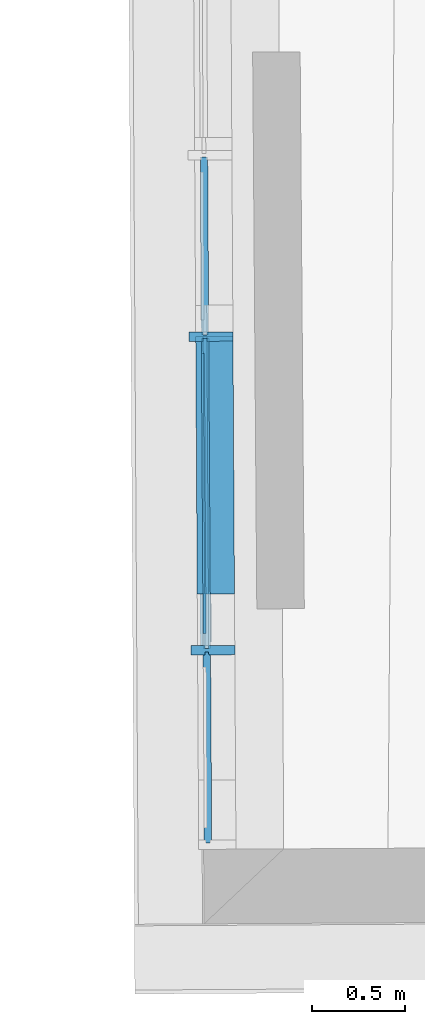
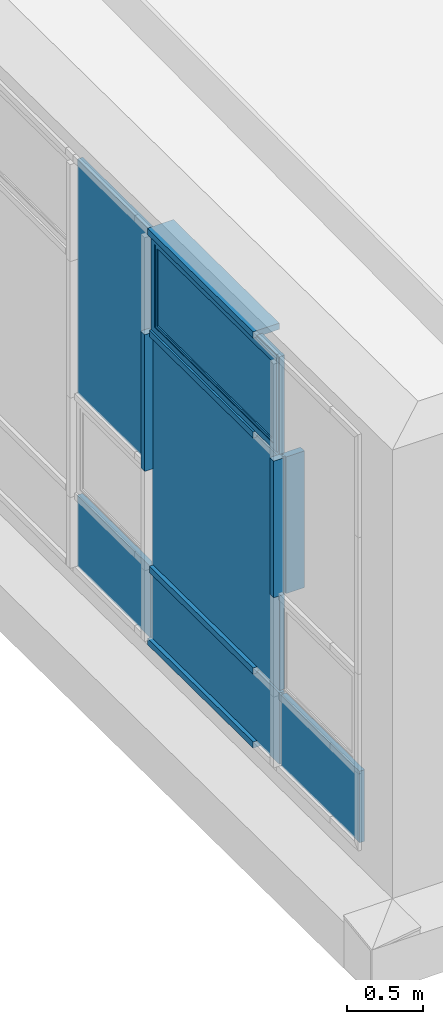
# One storey, part 91 of 158: 13 building element parts, 1 element without a shape of its own.
"""IFC2X3 building model written with IfcOpenShell, lengths in metres."""

from ifc_helpers import new_model, entity, si_unit, converted_unit, derived_unit, money_unit, direction, frame, origin_with_axes, place, context, subcontext, project, spatial, faceted_brep, material, type_object, element, aggregate, save


model = new_model("IFC2X3")

# Units and contexts
model_context = context("Model", 3, precision=1e-05, world=origin_with_axes(), true_north=direction((0.0, 1.0)))
body_context = subcontext(model_context, "Body", "Model", "MODEL_VIEW")
ifc_project = project(units=[si_unit("LENGTHUNIT", "METRE"), si_unit("AREAUNIT", "SQUARE_METRE"), si_unit("VOLUMEUNIT", "CUBIC_METRE"), converted_unit("PLANEANGLEUNIT", "DEGREE", entity("IfcPlaneAngleMeasure", 0.0174532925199), si_unit("PLANEANGLEUNIT", "RADIAN"), dimensions=[0, 0, 0, 0, 0, 0, 0]), money_unit("EUR"), converted_unit("TIMEUNIT", "Year", entity("IfcTimeMeasure", 31556926.0), si_unit("TIMEUNIT", "SECOND"), dimensions=[0, 0, 1, 0, 0, 0, 0]), si_unit("MASSUNIT", "GRAM", prefix="KILO"), si_unit("THERMODYNAMICTEMPERATUREUNIT", "DEGREE_CELSIUS"), si_unit("LUMINOUSINTENSITYUNIT", "LUMEN"), si_unit("ENERGYUNIT", "JOULE", prefix="MEGA"), derived_unit("THERMALCONDUCTANCEUNIT", [(si_unit("POWERUNIT", "WATT"), 1), (si_unit("LENGTHUNIT", "METRE"), -1), (si_unit("THERMODYNAMICTEMPERATUREUNIT", "KELVIN"), -1)]), derived_unit("SPECIFICHEATCAPACITYUNIT", [(si_unit("ENERGYUNIT", "JOULE"), 1), (si_unit("MASSUNIT", "GRAM", prefix="KILO"), -1), (si_unit("THERMODYNAMICTEMPERATUREUNIT", "KELVIN"), -1)]), derived_unit("MASSDENSITYUNIT", [(si_unit("MASSUNIT", "GRAM", prefix="KILO"), 1), (si_unit("VOLUMEUNIT", "CUBIC_METRE"), -1)])], contexts=[model_context])

# Site, building, storey
site_placement = place(None, origin_with_axes())
site = spatial("IfcSite", under=ifc_project, at=site_placement, Name="Gelände", CompositionType="ELEMENT")
building_placement = place(site_placement, origin_with_axes())
building = spatial("IfcBuilding", under=site, at=building_placement, Name="Gebäude", CompositionType="ELEMENT")
storey_placement = place(building_placement, origin_with_axes())
storey = spatial("IfcBuildingStorey", under=building, at=storey_placement, Name="ERDGESCHOSS", CompositionType="ELEMENT", Elevation=0.0)

# Proxy, building element parts
building_element_proxy_type = type_object("IfcBuildingElementProxyType", Name="Fassadentyp", PredefinedType="NOTDEFINED")
proxy_placement = place(storey_placement, frame((-34.8120286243, 34.4012060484, 1.3404389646), z_axis=(0.0, 0.0, 1.0), x_axis=(1.0, 0.0, 0.0)))
proxy = element("IfcBuildingElementProxy", 1, at=proxy_placement, inside=storey, type_object=building_element_proxy_type, Name="Fassade-002")
ifc_material_1 = material(Name="45_Glas, Normalglas")
building_element_part_1_placement = place(proxy_placement, origin_with_axes())
building_element_part_1 = element("IfcBuildingElementPart", 2, at=building_element_part_1_placement, material=ifc_material_1, Name="45_Glas, Normalglas", context=body_context, shape_type="Brep", body=[
    faceted_brep([(0.02233019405, -0.397258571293, 3.31499999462), (0.0213984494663, -0.238388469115, 3.31499999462), (-0.0186008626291, -0.238623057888, 3.31499999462), (-0.0176691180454, -0.397493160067, 3.31499999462), (0.02233019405, -0.397258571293, 2.52000009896), (0.0223301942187, -0.397258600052, 1.43000009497), (0.0213984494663, -0.238388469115, 1.43000009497), (0.0167365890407, 0.556497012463, 1.43000009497), (0.0167365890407, 0.556497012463, 2.52000009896), (0.0167365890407, 0.556497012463, 3.31499999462), (-0.0232627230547, 0.55626242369, 3.31499999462), (-0.0232627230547, 0.55626242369, 2.52000009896), (-0.0232627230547, 0.55626242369, 1.43000009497), (-0.0186008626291, -0.238623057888, 1.43000009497), (-0.0176691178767, -0.397493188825, 1.43000009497), (-0.0176691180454, -0.397493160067, 2.52000009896)], [[[0, 1, 2, 3]], [[0, 4, 5, 6, 7, 8, 9, 1]], [[1, 9, 10, 2]], [[3, 2, 10, 11, 12, 13, 14, 15]], [[4, 0, 3, 15]], [[5, 4, 15, 14]], [[6, 5, 14, 13]], [[7, 6, 13, 12]], [[8, 7, 12, 11]], [[9, 8, 11, 10]]]),
])
building_element_part_2_placement = place(proxy_placement, origin_with_axes())
building_element_part_2 = element("IfcBuildingElementPart", 3, at=building_element_part_2_placement, material=ifc_material_1, Name="45_Glas, Normalglas", context=body_context, shape_type="Brep", body=[
    faceted_brep([(0.0223301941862, -0.397258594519, 0.610000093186), (0.0213984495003, -0.238388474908, 0.610000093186), (-0.0186008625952, -0.238623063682, 0.610000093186), (-0.0176691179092, -0.397493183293, 0.610000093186), (0.0223301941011, -0.397258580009, 0.035000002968), (0.0213984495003, -0.238388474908, 0.035000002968), (0.0167365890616, 0.55649700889, 0.035000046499), (0.0167365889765, 0.5564970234, 0.610000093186), (-0.0232627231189, 0.556262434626, 0.610000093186), (-0.0232627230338, 0.556262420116, 0.035000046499), (-0.0186008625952, -0.238623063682, 0.035000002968), (-0.0176691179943, -0.397493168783, 0.035000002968)], [[[0, 1, 2, 3]], [[0, 4, 5, 6, 7, 1]], [[1, 7, 8, 2]], [[3, 2, 8, 9, 10, 11]], [[4, 0, 3, 11]], [[5, 4, 11, 10]], [[6, 5, 10, 9]], [[7, 6, 9, 8]]]),
])
building_element_part_3_placement = place(proxy_placement, origin_with_axes())
building_element_part_3 = element("IfcBuildingElementPart", 4, at=building_element_part_3_placement, material=ifc_material_1, Name="45_Glas, Normalglas", context=body_context, shape_type="Brep", body=[
    faceted_brep([(0.0322030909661, -2.08066856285, 2.51000010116), (0.0304887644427, -1.78836181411, 2.51000010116), (-0.0095105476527, -1.78859640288, 2.51000010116), (-0.00779622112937, -2.08090315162, 2.51000010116), (0.0322030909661, -2.08066856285, 1.42000009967), (0.0322030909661, -2.08066856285, 0.630000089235), (0.0304887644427, -1.78836181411, 0.630000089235), (0.022447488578, -0.417258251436, 0.630000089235), (0.022447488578, -0.417258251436, 1.42000009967), (0.022447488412, -0.417258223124, 2.51000010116), (-0.0175518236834, -0.417492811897, 2.51000010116), (-0.0175518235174, -0.417492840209, 1.42000009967), (-0.0175518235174, -0.417492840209, 0.630000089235), (-0.0095105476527, -1.78859640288, 0.630000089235), (-0.00779622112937, -2.08090315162, 0.630000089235), (-0.00779622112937, -2.08090315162, 1.42000009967)], [[[0, 1, 2, 3]], [[0, 4, 5, 6, 7, 8, 9, 1]], [[1, 9, 10, 2]], [[3, 2, 10, 11, 12, 13, 14, 15]], [[4, 0, 3, 15]], [[5, 4, 15, 14]], [[6, 5, 14, 13]], [[7, 6, 13, 12]], [[8, 7, 12, 11]], [[9, 8, 11, 10]]]),
])
ifc_material_2 = material(Name="53_Metall, Aluminium")
building_element_part_4_placement = place(proxy_placement, origin_with_axes())
building_element_part_4 = element("IfcBuildingElementPart", 5, at=building_element_part_4_placement, material=ifc_material_2, Name="53_Metall, Aluminium", context=body_context, shape_type="Brep", body=[
    faceted_brep([(-0.027463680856, -0.432551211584, 2.54500009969), (-0.0178840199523, -2.06596205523, 2.54500009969), (-0.0228839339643, -2.06599137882, 2.54500009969), (-0.0324635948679, -0.432580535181, 2.54500009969), (-0.0271997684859, -0.477550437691, 2.59000009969), (-0.0181479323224, -2.02096282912, 2.59000009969), (-0.0231478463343, -2.02099215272, 2.59000009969), (-0.0321996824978, -0.477579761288, 2.59000009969)], [[[0, 1, 2, 3]], [[0, 4, 5, 1]], [[1, 5, 6, 2]], [[3, 2, 6, 7]], [[4, 0, 3, 7]], [[5, 4, 7, 6]]]),
    faceted_brep([(-0.0178840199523, -2.06596205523, 2.54500009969), (-0.0178840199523, -2.06596205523, 3.29999999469), (-0.0228839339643, -2.06599137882, 3.29999999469), (-0.0228839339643, -2.06599137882, 2.54500009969), (-0.0181479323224, -2.02096282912, 2.59000009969), (-0.0181479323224, -2.02096282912, 3.25499999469), (-0.0231478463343, -2.02099215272, 3.25499999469), (-0.0231478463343, -2.02099215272, 2.59000009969)], [[[0, 1, 2, 3]], [[0, 4, 5, 1]], [[1, 5, 6, 2]], [[3, 2, 6, 7]], [[4, 0, 3, 7]], [[5, 4, 7, 6]]]),
    faceted_brep([(-0.027463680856, -0.432551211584, 3.29999999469), (-0.0271997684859, -0.477550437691, 3.25499999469), (-0.0321996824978, -0.477579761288, 3.25499999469), (-0.0324635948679, -0.432580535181, 3.29999999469), (-0.0178840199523, -2.06596205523, 3.29999999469), (-0.0181479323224, -2.02096282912, 3.25499999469), (-0.0231478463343, -2.02099215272, 3.25499999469), (-0.0228839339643, -2.06599137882, 3.29999999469)], [[[0, 1, 2, 3]], [[0, 4, 5, 1]], [[1, 5, 6, 2]], [[3, 2, 6, 7]], [[4, 0, 3, 7]], [[5, 4, 7, 6]]]),
    faceted_brep([(-0.027463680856, -0.432551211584, 2.54500009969), (-0.0271997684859, -0.477550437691, 2.59000009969), (-0.0321996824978, -0.477579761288, 2.59000009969), (-0.0324635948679, -0.432580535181, 2.54500009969), (-0.027463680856, -0.432551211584, 3.29999999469), (-0.0271997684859, -0.477550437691, 3.25499999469), (-0.0321996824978, -0.477579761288, 3.25499999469), (-0.0324635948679, -0.432580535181, 3.29999999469)], [[[0, 1, 2, 3]], [[0, 4, 5, 1]], [[1, 5, 6, 2]], [[3, 2, 6, 7]], [[4, 0, 3, 7]], [[5, 4, 7, 6]]]),
    faceted_brep([(0.0225354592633, -0.432257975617, 2.54500009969), (0.0321151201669, -2.06566881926, 2.54500009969), (-0.0178840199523, -2.06596205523, 2.54500009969), (-0.027463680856, -0.432551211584, 2.54500009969), (0.02265275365, -0.452257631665, 2.56500009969), (0.0319978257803, -2.04566916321, 2.56500009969), (-0.018001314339, -2.04596239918, 2.56500009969), (-0.0273463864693, -0.452550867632, 2.56500009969)], [[[0, 1, 2, 3]], [[0, 4, 5, 1]], [[1, 5, 6, 2]], [[3, 2, 6, 7]], [[4, 0, 3, 7]], [[5, 4, 7, 6]]]),
    faceted_brep([(0.0321151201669, -2.06566881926, 2.54500009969), (0.0321151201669, -2.06566881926, 3.29999999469), (-0.0178840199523, -2.06596205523, 3.29999999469), (-0.0178840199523, -2.06596205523, 2.54500009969), (0.0319978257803, -2.04566916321, 2.56500009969), (0.0319978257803, -2.04566916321, 3.27999999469), (-0.018001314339, -2.04596239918, 3.27999999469), (-0.018001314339, -2.04596239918, 2.56500009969)], [[[0, 1, 2, 3]], [[0, 4, 5, 1]], [[1, 5, 6, 2]], [[3, 2, 6, 7]], [[4, 0, 3, 7]], [[5, 4, 7, 6]]]),
    faceted_brep([(0.0225354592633, -0.432257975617, 3.29999999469), (0.02265275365, -0.452257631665, 3.27999999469), (-0.0273463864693, -0.452550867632, 3.27999999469), (-0.027463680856, -0.432551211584, 3.29999999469), (0.0321151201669, -2.06566881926, 3.29999999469), (0.0319978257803, -2.04566916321, 3.27999999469), (-0.018001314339, -2.04596239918, 3.27999999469), (-0.0178840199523, -2.06596205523, 3.29999999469)], [[[0, 1, 2, 3]], [[0, 4, 5, 1]], [[1, 5, 6, 2]], [[3, 2, 6, 7]], [[4, 0, 3, 7]], [[5, 4, 7, 6]]]),
    faceted_brep([(0.0225354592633, -0.432257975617, 2.54500009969), (0.02265275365, -0.452257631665, 2.56500009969), (-0.0273463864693, -0.452550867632, 2.56500009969), (-0.027463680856, -0.432551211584, 2.54500009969), (0.0225354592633, -0.432257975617, 3.29999999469), (0.02265275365, -0.452257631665, 3.27999999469), (-0.0273463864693, -0.452550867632, 3.27999999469), (-0.027463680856, -0.432551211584, 3.29999999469)], [[[0, 1, 2, 3]], [[0, 4, 5, 1]], [[1, 5, 6, 2]], [[3, 2, 6, 7]], [[4, 0, 3, 7]], [[5, 4, 7, 6]]]),
    faceted_brep([(0.0224474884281, -0.417258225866, 2.53000009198), (0.0322030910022, -2.08066856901, 2.53000009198), (-0.00779622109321, -2.08090315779, 2.53000009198), (-0.0175518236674, -0.41749281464, 2.53000009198), (0.0225354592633, -0.432257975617, 2.54500009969), (0.0321151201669, -2.06566881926, 2.54500009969), (-0.00788419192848, -2.06590340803, 2.54500009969), (-0.0174638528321, -0.432492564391, 2.54500009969)], [[[0, 1, 2, 3]], [[0, 4, 5, 1]], [[1, 5, 6, 2]], [[3, 2, 6, 7]], [[4, 0, 3, 7]], [[5, 4, 7, 6]]]),
    faceted_brep([(0.0322030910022, -2.08066856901, 2.53000009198), (0.0322030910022, -2.08066856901, 3.3150000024), (-0.00779622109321, -2.08090315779, 3.3150000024), (-0.00779622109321, -2.08090315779, 2.53000009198), (0.0321151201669, -2.06566881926, 2.54500009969), (0.0321151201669, -2.06566881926, 3.29999999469), (-0.00788419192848, -2.06590340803, 3.29999999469), (-0.00788419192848, -2.06590340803, 2.54500009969)], [[[0, 1, 2, 3]], [[0, 4, 5, 1]], [[1, 5, 6, 2]], [[3, 2, 6, 7]], [[4, 0, 3, 7]], [[5, 4, 7, 6]]]),
    faceted_brep([(0.0322030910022, -2.08066856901, 3.3150000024), (0.0224474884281, -0.417258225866, 3.3150000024), (-0.0175518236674, -0.41749281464, 3.3150000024), (-0.00779622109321, -2.08090315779, 3.3150000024), (0.0321151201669, -2.06566881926, 3.29999999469), (0.0225354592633, -0.432257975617, 3.29999999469), (-0.0174638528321, -0.432492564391, 3.29999999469), (-0.00788419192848, -2.06590340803, 3.29999999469)], [[[0, 1, 2, 3]], [[0, 4, 5, 1]], [[1, 5, 6, 2]], [[3, 2, 6, 7]], [[4, 0, 3, 7]], [[5, 4, 7, 6]]]),
    faceted_brep([(0.0224474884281, -0.417258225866, 3.3150000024), (0.0224474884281, -0.417258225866, 2.53000009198), (-0.0175518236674, -0.41749281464, 2.53000009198), (-0.0175518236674, -0.41749281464, 3.3150000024), (0.0225354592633, -0.432257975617, 3.29999999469), (0.0225354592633, -0.432257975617, 2.54500009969), (-0.0174638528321, -0.432492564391, 2.54500009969), (-0.0174638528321, -0.432492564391, 3.29999999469)], [[[0, 1, 2, 3]], [[0, 4, 5, 1]], [[1, 5, 6, 2]], [[3, 2, 6, 7]], [[4, 0, 3, 7]], [[5, 4, 7, 6]]]),
    faceted_brep([(-0.0270824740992, -0.497550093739, 2.61000009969), (0.027916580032, -0.497227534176, 2.61000009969), (0.027916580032, -0.497227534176, 3.23499999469), (-0.0270824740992, -0.497550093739, 3.23499999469), (-0.0273463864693, -0.452550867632, 2.56500009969), (0.027652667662, -0.452228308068, 2.56500009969), (0.027652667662, -0.452228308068, 3.27999999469), (-0.0273463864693, -0.452550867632, 3.27999999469)], [[[0, 1, 2, 3]], [[4, 5, 1, 0]], [[1, 5, 6, 2]], [[3, 2, 6, 7]], [[0, 3, 7, 4]], [[7, 6, 5, 4]]]),
    faceted_brep([(-0.018001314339, -2.04596239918, 2.56500009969), (0.0369977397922, -2.04563983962, 2.56500009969), (0.0369977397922, -2.04563983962, 3.27999999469), (-0.018001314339, -2.04596239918, 3.27999999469), (-0.0182652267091, -2.00096317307, 2.61000009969), (0.0367338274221, -2.00064061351, 2.61000009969), (0.0367338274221, -2.00064061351, 3.23499999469), (-0.0182652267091, -2.00096317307, 3.23499999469)], [[[0, 1, 2, 3]], [[4, 5, 1, 0]], [[1, 5, 6, 2]], [[3, 2, 6, 7]], [[0, 3, 7, 4]], [[7, 6, 5, 4]]]),
    faceted_brep([(-0.018001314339, -2.04596239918, 2.56500009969), (0.0369977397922, -2.04563983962, 2.56500009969), (0.0367338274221, -2.00064061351, 2.61000009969), (-0.0182652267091, -2.00096317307, 2.61000009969), (-0.0273463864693, -0.452550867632, 2.56500009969), (0.027652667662, -0.452228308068, 2.56500009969), (0.027916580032, -0.497227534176, 2.61000009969), (-0.0270824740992, -0.497550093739, 2.61000009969)], [[[0, 1, 2, 3]], [[4, 5, 1, 0]], [[1, 5, 6, 2]], [[3, 2, 6, 7]], [[0, 3, 7, 4]], [[7, 6, 5, 4]]]),
    faceted_brep([(-0.0273463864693, -0.452550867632, 3.27999999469), (0.027652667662, -0.452228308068, 3.27999999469), (0.027916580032, -0.497227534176, 3.23499999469), (-0.0270824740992, -0.497550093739, 3.23499999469), (-0.018001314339, -2.04596239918, 3.27999999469), (0.0369977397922, -2.04563983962, 3.27999999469), (0.0367338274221, -2.00064061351, 3.23499999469), (-0.0182652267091, -2.00096317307, 3.23499999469)], [[[0, 1, 2, 3]], [[4, 5, 1, 0]], [[1, 5, 6, 2]], [[3, 2, 6, 7]], [[0, 3, 7, 4]], [[7, 6, 5, 4]]]),
])
building_element_part_5_placement = place(proxy_placement, origin_with_axes())
building_element_part_5 = element("IfcBuildingElementPart", 6, at=building_element_part_5_placement, material=ifc_material_1, Name="45_Glas, Normalglas", context=body_context, shape_type="Brep", body=[
    faceted_brep([(-0.0170826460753, -0.497491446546, 2.61000009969), (-0.00108292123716, -0.497397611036, 2.61000009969), (0.00773432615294, -2.00081069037, 2.61000009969), (-0.00826539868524, -2.00090452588, 2.61000009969), (-0.0170826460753, -0.497491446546, 3.23499999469), (-0.00108292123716, -0.497397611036, 3.23499999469), (0.00773432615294, -2.00081069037, 3.23499999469), (-0.00826539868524, -2.00090452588, 3.23499999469)], [[[0, 1, 2, 3]], [[4, 5, 1, 0]], [[1, 5, 6, 2]], [[3, 2, 6, 7]], [[0, 3, 7, 4]], [[7, 6, 5, 4]]]),
])
building_element_part_6_placement = place(proxy_placement, origin_with_axes())
building_element_part_6 = element("IfcBuildingElementPart", 7, at=building_element_part_6_placement, material=ifc_material_1, Name="45_Glas, Normalglas", context=body_context, shape_type="Brep", body=[
    faceted_brep([(0.0322030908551, -2.08066854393, 0.610000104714), (0.0304887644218, -1.78836181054, 0.610000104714), (-0.00951054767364, -1.78859639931, 0.610000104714), (-0.00779622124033, -2.0809031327, 0.610000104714), (0.0322030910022, -2.08066856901, 0.035000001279), (0.0304887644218, -1.78836181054, 0.035000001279), (0.0224474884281, -0.417258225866, 0.035000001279), (0.0224474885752, -0.417258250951, 0.610000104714), (-0.0175518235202, -0.417492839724, 0.610000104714), (-0.0175518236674, -0.41749281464, 0.035000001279), (-0.00951054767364, -1.78859639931, 0.035000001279), (-0.00779622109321, -2.08090315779, 0.035000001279)], [[[0, 1, 2, 3]], [[0, 4, 5, 6, 7, 1]], [[1, 7, 8, 2]], [[3, 2, 8, 9, 10, 11]], [[4, 0, 3, 11]], [[5, 4, 11, 10]], [[6, 5, 10, 9]], [[7, 6, 9, 8]]]),
])
building_element_part_7_placement = place(proxy_placement, origin_with_axes())
building_element_part_7 = element("IfcBuildingElementPart", 8, at=building_element_part_7_placement, material=ifc_material_1, Name="45_Glas, Normalglas", context=body_context, shape_type="Brep", body=[
    faceted_brep([(0.0383259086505, -3.12465925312, 0.610000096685), (0.0363534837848, -2.78834461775, 0.610000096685), (-0.0036458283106, -2.78857920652, 0.610000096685), (-0.00167340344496, -3.12489384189, 0.610000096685), (0.0383259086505, -3.12465925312, 0.0349999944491), (0.0363534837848, -2.78834461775, 0.0349999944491), (0.0323203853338, -2.10066821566, 0.0349999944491), (0.0323203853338, -2.10066821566, 0.610000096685), (-0.00767892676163, -2.10090280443, 0.610000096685), (-0.00767892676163, -2.10090280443, 0.0349999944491), (-0.0036458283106, -2.78857920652, 0.0349999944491), (-0.00167340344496, -3.12489384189, 0.0349999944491)], [[[0, 1, 2, 3]], [[0, 4, 5, 6, 7, 1]], [[1, 7, 8, 2]], [[3, 2, 8, 9, 10, 11]], [[4, 0, 3, 11]], [[5, 4, 11, 10]], [[6, 5, 10, 9]], [[7, 6, 9, 8]]]),
])
building_element_part_8_placement = place(proxy_placement, origin_with_axes())
building_element_part_8 = element("IfcBuildingElementPart", 9, at=building_element_part_8_placement, material=ifc_material_2, Name="53_Metall, Aluminium", context=body_context, shape_type="Brep", body=[
    faceted_brep([(0.0223205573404, -2.10072686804, 2.52000009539), (0.0224085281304, -2.11572661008, 2.52000009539), (0.162406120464, -2.11490554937, 2.52000009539), (0.162112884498, -2.06490640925, 2.52000009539), (0.0221152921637, -2.06572746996, 2.52000009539), (0.0222032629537, -2.080727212, 2.52000009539), (0.00220360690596, -2.08084450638, 2.52000009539), (0.00211563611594, -2.06584476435, 2.52000009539), (-0.072883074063, -2.0662846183, 2.52000009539), (-0.0725898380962, -2.11628375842, 2.52000009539), (0.00240887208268, -2.11584390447, 2.52000009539), (0.00232090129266, -2.10084416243, 2.52000009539), (0.0223205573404, -2.10072686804, 1.420000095), (0.0224085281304, -2.11572661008, 1.420000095), (0.162406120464, -2.11490554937, 1.420000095), (0.162112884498, -2.06490640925, 1.420000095), (0.0221152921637, -2.06572746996, 1.420000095), (0.0222032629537, -2.080727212, 1.420000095), (0.00220360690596, -2.08084450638, 1.420000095), (0.00211563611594, -2.06584476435, 1.420000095), (-0.072883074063, -2.0662846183, 1.420000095), (-0.0725898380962, -2.11628375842, 1.420000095), (0.00240887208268, -2.11584390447, 1.420000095), (0.00232090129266, -2.10084416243, 1.420000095)], [[[0, 1, 2, 3, 4, 5, 6, 7, 8, 9, 10, 11]], [[1, 0, 12, 13]], [[1, 13, 14, 2]], [[3, 2, 14, 15]], [[4, 3, 15, 16]], [[4, 16, 17, 5]], [[5, 17, 18, 6]], [[7, 6, 18, 19]], [[19, 20, 8, 7]], [[9, 8, 20, 21]], [[22, 10, 9, 21]], [[11, 10, 22, 23]], [[0, 11, 23, 12]], [[23, 22, 21, 20, 19, 18, 17, 16, 15, 14, 13, 12]]]),
])
building_element_part_9_placement = place(proxy_placement, origin_with_axes())
building_element_part_9 = element("IfcBuildingElementPart", 10, at=building_element_part_9_placement, material=ifc_material_2, Name="53_Metall, Aluminium", context=body_context, shape_type="Brep", body=[
    faceted_brep([(0.0204889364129, -1.78842046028, 3.31499999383), (0.0204889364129, -1.78842046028, 3.29999999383), (0.160486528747, -1.78759939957, 3.29999999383), (0.160486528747, -1.78759939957, 3.34999999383), (-0.0395100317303, -1.78877234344, 3.34999999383), (-0.0395100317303, -1.78877234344, 3.29999999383), (0.000489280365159, -1.78853775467, 3.29999999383), (0.000489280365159, -1.78853775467, 3.31499999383), (0.0123890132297, -0.407317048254, 3.31499999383), (0.0123890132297, -0.407317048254, 3.29999999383), (0.152386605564, -0.406495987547, 3.29999999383), (0.152386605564, -0.406495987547, 3.34999999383), (-0.0476099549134, -0.407668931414, 3.34999999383), (-0.0476099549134, -0.407668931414, 3.29999999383), (-0.00761064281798, -0.407434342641, 3.29999999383), (-0.00761064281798, -0.407434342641, 3.31499999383)], [[[0, 1, 2, 3, 4, 5, 6, 7]], [[0, 8, 9, 1]], [[9, 10, 2, 1]], [[10, 11, 3, 2]], [[11, 12, 4, 3]], [[12, 13, 5, 4]], [[6, 5, 13, 14]], [[14, 15, 7, 6]], [[7, 15, 8, 0]], [[8, 15, 14, 13, 12, 11, 10, 9]]]),
])
building_element_part_10_placement = place(proxy_placement, origin_with_axes())
building_element_part_10 = element("IfcBuildingElementPart", 11, at=building_element_part_10_placement, material=ifc_material_2, Name="53_Metall, Aluminium", context=body_context, shape_type="Brep", body=[
    faceted_brep([(0.0204889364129, -1.78842046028, 0.035), (0.000489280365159, -1.78853775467, 0.035), (0.000489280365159, -1.78853775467, 0.05), (-0.0395100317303, -1.78877234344, 0.05), (-0.0395100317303, -1.78877234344, 0.0), (0.160486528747, -1.78759939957, 0.0), (0.160486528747, -1.78759939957, 0.05), (0.0204889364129, -1.78842046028, 0.05), (0.0123890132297, -0.407317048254, 0.035), (-0.00761064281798, -0.407434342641, 0.035), (-0.00761064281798, -0.407434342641, 0.05), (-0.0476099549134, -0.407668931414, 0.05), (-0.0476099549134, -0.407668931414, 0.0), (0.152386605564, -0.406495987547, 0.0), (0.152386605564, -0.406495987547, 0.05), (0.0123890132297, -0.407317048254, 0.05)], [[[0, 1, 2, 3, 4, 5, 6, 7]], [[1, 0, 8, 9]], [[10, 2, 1, 9]], [[2, 10, 11, 3]], [[12, 4, 3, 11]], [[13, 5, 4, 12]], [[14, 6, 5, 13]], [[15, 7, 6, 14]], [[0, 7, 15, 8]], [[8, 15, 14, 13, 12, 11, 10, 9]]]),
])
building_element_part_11_placement = place(proxy_placement, origin_with_axes())
building_element_part_11 = element("IfcBuildingElementPart", 12, at=building_element_part_11_placement, material=ifc_material_2, Name="53_Metall, Aluminium", context=body_context, shape_type="Brep", body=[
    faceted_brep([(0.0204889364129, -1.78842046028, 0.610000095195), (0.0204889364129, -1.78842046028, 0.595000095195), (0.160486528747, -1.78759939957, 0.595000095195), (0.160486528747, -1.78759939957, 0.645000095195), (0.0204889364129, -1.78842046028, 0.645000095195), (0.0204889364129, -1.78842046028, 0.630000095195), (0.000489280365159, -1.78853775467, 0.630000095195), (0.000489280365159, -1.78853775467, 0.645000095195), (-0.0395100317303, -1.78877234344, 0.645000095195), (-0.0395100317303, -1.78877234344, 0.595000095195), (0.000489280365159, -1.78853775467, 0.595000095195), (0.000489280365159, -1.78853775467, 0.610000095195), (0.0125356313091, -0.432316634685, 0.610000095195), (0.0125356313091, -0.432316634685, 0.595000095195), (0.152533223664, -0.431495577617, 0.595000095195), (0.152533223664, -0.431495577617, 0.645000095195), (0.0125356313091, -0.432316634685, 0.645000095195), (0.0125356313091, -0.432316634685, 0.630000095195), (-0.00746402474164, -0.432433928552, 0.630000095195), (-0.00746402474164, -0.432433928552, 0.645000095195), (-0.0474633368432, -0.432668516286, 0.645000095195), (-0.0474633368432, -0.432668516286, 0.595000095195), (-0.00746402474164, -0.432433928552, 0.595000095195), (-0.00746402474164, -0.432433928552, 0.610000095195)], [[[0, 1, 2, 3, 4, 5, 6, 7, 8, 9, 10, 11]], [[1, 0, 12, 13]], [[1, 13, 14, 2]], [[2, 14, 15, 3]], [[4, 3, 15, 16]], [[4, 16, 17, 5]], [[5, 17, 18, 6]], [[7, 6, 18, 19]], [[19, 20, 8, 7]], [[8, 20, 21, 9]], [[22, 10, 9, 21]], [[11, 10, 22, 23]], [[0, 11, 23, 12]], [[23, 22, 21, 20, 19, 18, 17, 16, 15, 14, 13, 12]]]),
])
building_element_part_12_placement = place(proxy_placement, origin_with_axes())
building_element_part_12 = element("IfcBuildingElementPart", 13, at=building_element_part_12_placement, material=ifc_material_2, Name="53_Metall, Aluminium", context=body_context, shape_type="Brep", body=[
    faceted_brep([(0.0124476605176, -0.41731689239, 2.52000009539), (0.0125356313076, -0.432316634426, 2.52000009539), (0.152533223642, -0.431495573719, 2.52000009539), (0.152239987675, -0.381496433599, 2.52000009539), (0.0122423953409, -0.382317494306, 2.52000009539), (0.0123303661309, -0.397317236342, 2.52000009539), (-0.00766928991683, -0.397434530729, 2.52000009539), (-0.00775726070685, -0.382434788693, 2.52000009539), (-0.0827559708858, -0.382874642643, 2.52000009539), (-0.082462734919, -0.432873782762, 2.52000009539), (-0.00746402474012, -0.432433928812, 2.52000009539), (-0.00755199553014, -0.417434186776, 2.52000009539), (0.0124476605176, -0.41731689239, 1.420000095), (0.0125356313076, -0.432316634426, 1.420000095), (0.152533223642, -0.431495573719, 1.420000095), (0.152239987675, -0.381496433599, 1.420000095), (0.0122423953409, -0.382317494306, 1.420000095), (0.0123303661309, -0.397317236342, 1.420000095), (-0.00766928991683, -0.397434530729, 1.420000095), (-0.00775726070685, -0.382434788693, 1.420000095), (-0.0827559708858, -0.382874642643, 1.420000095), (-0.082462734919, -0.432873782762, 1.420000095), (-0.00746402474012, -0.432433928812, 1.420000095), (-0.00755199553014, -0.417434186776, 1.420000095)], [[[0, 1, 2, 3, 4, 5, 6, 7, 8, 9, 10, 11]], [[1, 0, 12, 13]], [[1, 13, 14, 2]], [[3, 2, 14, 15]], [[4, 3, 15, 16]], [[4, 16, 17, 5]], [[5, 17, 18, 6]], [[7, 6, 18, 19]], [[19, 20, 8, 7]], [[9, 8, 20, 21]], [[22, 10, 9, 21]], [[11, 10, 22, 23]], [[0, 11, 23, 12]], [[23, 22, 21, 20, 19, 18, 17, 16, 15, 14, 13, 12]]]),
])
building_element_part_13_placement = place(proxy_placement, origin_with_axes())
building_element_part_13 = element("IfcBuildingElementPart", 14, at=building_element_part_13_placement, material=ifc_material_2, Name="53_Metall, Aluminium", context=body_context, shape_type="Brep", body=[
    faceted_brep([(0.0204889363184, -1.78842044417, 2.5100000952), (0.0204889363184, -1.78842044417, 2.4950000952), (0.160486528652, -1.78759938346, 2.4950000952), (0.160486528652, -1.78759938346, 2.5450000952), (0.0204889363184, -1.78842044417, 2.5450000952), (0.0204889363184, -1.78842044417, 2.5300000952), (0.000489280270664, -1.78853773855, 2.5300000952), (0.000489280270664, -1.78853773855, 2.5450000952), (-0.0395100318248, -1.78877232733, 2.5450000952), (-0.0395100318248, -1.78877232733, 2.4950000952), (0.000489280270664, -1.78853773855, 2.4950000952), (0.000489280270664, -1.78853773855, 2.5100000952), (0.0125356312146, -0.432316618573, 2.5100000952), (0.0125356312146, -0.432316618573, 2.4950000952), (0.15253322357, -0.431495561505, 2.4950000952), (0.15253322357, -0.431495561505, 2.5450000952), (0.0125356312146, -0.432316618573, 2.5450000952), (0.0125356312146, -0.432316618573, 2.5300000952), (-0.00746402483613, -0.43243391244, 2.5300000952), (-0.00746402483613, -0.43243391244, 2.5450000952), (-0.0474633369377, -0.432668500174, 2.5450000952), (-0.0474633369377, -0.432668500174, 2.4950000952), (-0.00746402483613, -0.43243391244, 2.4950000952), (-0.00746402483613, -0.43243391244, 2.5100000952)], [[[0, 1, 2, 3, 4, 5, 6, 7, 8, 9, 10, 11]], [[1, 0, 12, 13]], [[1, 13, 14, 2]], [[2, 14, 15, 3]], [[4, 3, 15, 16]], [[4, 16, 17, 5]], [[5, 17, 18, 6]], [[7, 6, 18, 19]], [[19, 20, 8, 7]], [[8, 20, 21, 9]], [[22, 10, 9, 21]], [[11, 10, 22, 23]], [[0, 11, 23, 12]], [[23, 22, 21, 20, 19, 18, 17, 16, 15, 14, 13, 12]]]),
])
aggregate(proxy, [building_element_part_1, building_element_part_2, building_element_part_3, building_element_part_4, building_element_part_5, building_element_part_6, building_element_part_7, building_element_part_8, building_element_part_9, building_element_part_10, building_element_part_11, building_element_part_12, building_element_part_13])

save(model, "model.ifc")
